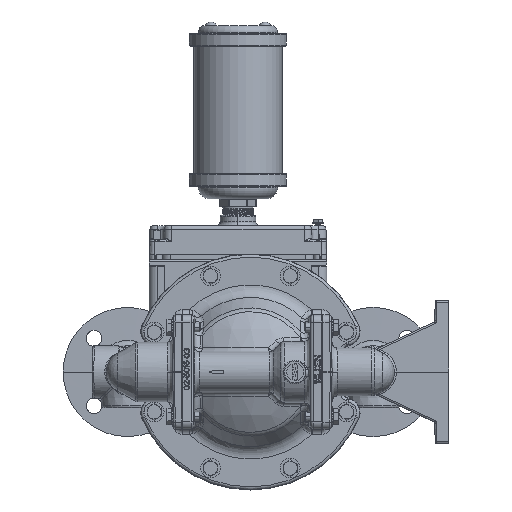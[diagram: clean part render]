
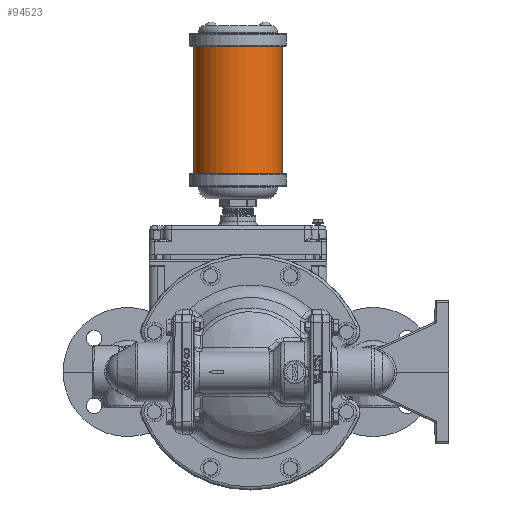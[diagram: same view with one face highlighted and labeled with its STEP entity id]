
A CAD part, left-side view. The second image highlights one B-rep face of the part: STEP entity #94523.
In plain terms, the highlighted cylindrical face has radius 39.243 mm (diameter 78.486 mm), a partial arc.
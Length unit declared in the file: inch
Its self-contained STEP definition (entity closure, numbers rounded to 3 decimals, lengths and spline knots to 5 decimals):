
#708 = VERTEX_POINT ( 'NONE', #198597 ) ;
#2207 = CARTESIAN_POINT ( 'NONE',  ( 0., 1.98, 6.951 ) ) ;
#14634 = EDGE_CURVE ( 'NONE', #708, #33201, #141660, .T. ) ;
#20590 = CARTESIAN_POINT ( 'NONE',  ( 0., 0.435, 11.43 ) ) ;
#22831 = DIRECTION ( 'NONE',  ( 0., 0., 1. ) ) ;
#33201 = VERTEX_POINT ( 'NONE', #199655 ) ;
#40679 = AXIS2_PLACEMENT_3D ( 'NONE', #217344, #114312, #196744 ) ;
#42177 = DIRECTION ( 'NONE',  ( 0., 0., 1. ) ) ;
#46399 = VERTEX_POINT ( 'NONE', #116269 ) ;
#46997 = AXIS2_PLACEMENT_3D ( 'NONE', #203266, #22831, #241914 ) ;
#64282 = DIRECTION ( 'NONE',  ( 0., 0., 1. ) ) ;
#68640 = CARTESIAN_POINT ( 'NONE',  ( 0., 1.98, 6.951 ) ) ;
#75103 = CIRCLE ( 'NONE', #177992, 1.545 ) ;
#83586 = ORIENTED_EDGE ( 'NONE', *, *, #155094, .F. ) ;
#91651 = VERTEX_POINT ( 'NONE', #68640 ) ;
#94523 = ADVANCED_FACE ( 'NONE', ( #254757 ), #194186, .T. ) ;
#99237 = DIRECTION ( 'NONE',  ( 0., 0., 1. ) ) ;
#114312 = DIRECTION ( 'NONE',  ( 0., 0., -1. ) ) ;
#116269 = CARTESIAN_POINT ( 'NONE',  ( 0., 1.98, 11.43 ) ) ;
#119567 = LINE ( 'NONE', #2207, #231896 ) ;
#136930 = EDGE_LOOP ( 'NONE', ( #161013, #153920, #83586, #230984 ) ) ;
#141660 = LINE ( 'NONE', #220278, #201766 ) ;
#153920 = ORIENTED_EDGE ( 'NONE', *, *, #14634, .T. ) ;
#155094 = EDGE_CURVE ( 'NONE', #46399, #33201, #75103, .T. ) ;
#161013 = ORIENTED_EDGE ( 'NONE', *, *, #199135, .T. ) ;
#166445 = CIRCLE ( 'NONE', #46997, 1.545 ) ;
#177992 = AXIS2_PLACEMENT_3D ( 'NONE', #20590, #99237, #217814 ) ;
#194186 = CYLINDRICAL_SURFACE ( 'NONE', #40679, 1.545 ) ;
#196744 = DIRECTION ( 'NONE',  ( 0., -1., 0. ) ) ;
#198597 = CARTESIAN_POINT ( 'NONE',  ( 0., -1.11, 6.951 ) ) ;
#199135 = EDGE_CURVE ( 'NONE', #91651, #708, #166445, .T. ) ;
#199655 = CARTESIAN_POINT ( 'NONE',  ( 0., -1.11, 11.43 ) ) ;
#201766 = VECTOR ( 'NONE', #64282, 39.37008 ) ;
#203266 = CARTESIAN_POINT ( 'NONE',  ( 0., 0.435, 6.951 ) ) ;
#217344 = CARTESIAN_POINT ( 'NONE',  ( 0., 0.435, 12.455 ) ) ;
#217814 = DIRECTION ( 'NONE',  ( 0., 1., 0. ) ) ;
#220278 = CARTESIAN_POINT ( 'NONE',  ( 0., -1.11, 6.951 ) ) ;
#230984 = ORIENTED_EDGE ( 'NONE', *, *, #238454, .F. ) ;
#231896 = VECTOR ( 'NONE', #42177, 39.37008 ) ;
#238454 = EDGE_CURVE ( 'NONE', #91651, #46399, #119567, .T. ) ;
#241914 = DIRECTION ( 'NONE',  ( 0., 1., 0. ) ) ;
#254757 = FACE_OUTER_BOUND ( 'NONE', #136930, .T. ) ;
